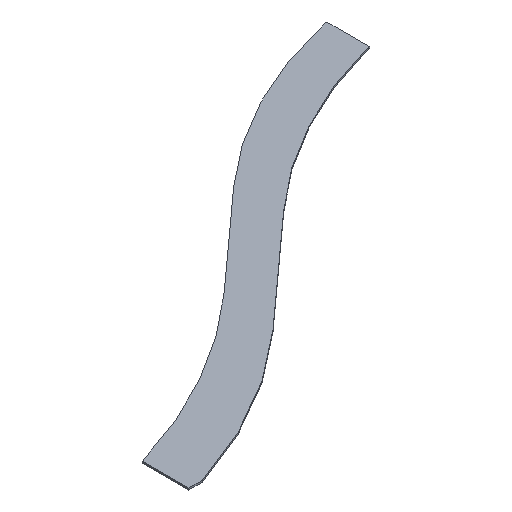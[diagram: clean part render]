
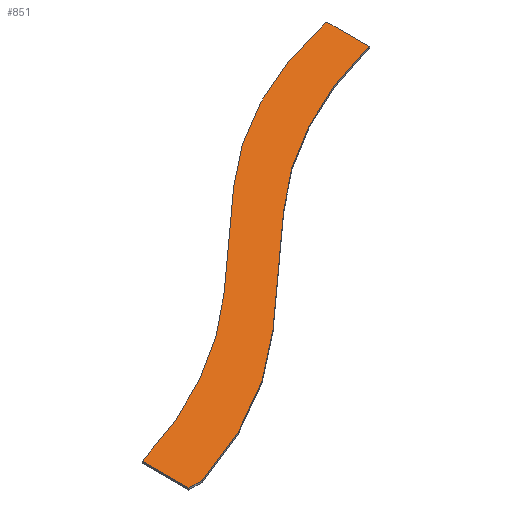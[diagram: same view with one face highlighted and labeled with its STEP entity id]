
A CAD part, isometric view. The second image highlights one B-rep face of the part: STEP entity #851.
In plain terms, the highlighted planar face has unit normal (0, 0, 1).
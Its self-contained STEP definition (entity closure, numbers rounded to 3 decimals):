
#660=CIRCLE('',#821,2620.656);
#662=CIRCLE('',#824,2479.82);
#663=CIRCLE('',#825,2908.977);
#664=CIRCLE('',#826,2717.17);
#680=ORIENTED_EDGE('',*,*,#763,.F.);
#681=ORIENTED_EDGE('',*,*,#767,.T.);
#682=ORIENTED_EDGE('',*,*,#768,.T.);
#683=ORIENTED_EDGE('',*,*,#769,.F.);
#684=ORIENTED_EDGE('',*,*,#770,.T.);
#685=ORIENTED_EDGE('',*,*,#771,.F.);
#686=ORIENTED_EDGE('',*,*,#772,.T.);
#687=ORIENTED_EDGE('',*,*,#773,.F.);
#688=ORIENTED_EDGE('',*,*,#774,.F.);
#689=ORIENTED_EDGE('',*,*,#775,.F.);
#690=ORIENTED_EDGE('',*,*,#764,.T.);
#739=VERTEX_POINT('',#1177);
#741=VERTEX_POINT('',#1181);
#742=VERTEX_POINT('',#1185);
#744=VERTEX_POINT('',#1191);
#745=VERTEX_POINT('',#1193);
#746=VERTEX_POINT('',#1195);
#747=VERTEX_POINT('',#1197);
#748=VERTEX_POINT('',#1199);
#749=VERTEX_POINT('',#1201);
#750=VERTEX_POINT('',#1203);
#751=VERTEX_POINT('',#1205);
#763=EDGE_CURVE('',#741,#739,#1290,.T.);
#764=EDGE_CURVE('',#742,#739,#660,.T.);
#767=EDGE_CURVE('',#741,#744,#1292,.T.);
#768=EDGE_CURVE('',#744,#745,#1293,.T.);
#769=EDGE_CURVE('',#746,#745,#662,.T.);
#770=EDGE_CURVE('',#746,#747,#1294,.T.);
#771=EDGE_CURVE('',#748,#747,#663,.T.);
#772=EDGE_CURVE('',#748,#749,#1295,.T.);
#773=EDGE_CURVE('',#750,#749,#1296,.T.);
#774=EDGE_CURVE('',#751,#750,#664,.T.);
#775=EDGE_CURVE('',#742,#751,#1297,.T.);
#795=EDGE_LOOP('',(#680,#681,#682,#683,#684,#685,#686,#687,#688,#689,#690));
#808=FACE_BOUND('',#795,.T.);
#821=AXIS2_PLACEMENT_3D('',#1186,#915,#916);
#823=AXIS2_PLACEMENT_3D('',#1190,#920,#921);
#824=AXIS2_PLACEMENT_3D('',#1196,#924,#925);
#825=AXIS2_PLACEMENT_3D('',#1200,#927,#928);
#826=AXIS2_PLACEMENT_3D('',#1206,#931,#932);
#841=PLANE('',#823);
#851=ADVANCED_FACE('',(#808),#841,.T.);
#912=DIRECTION('',(-10.,0.,0.));
#915=DIRECTION('',(0.,0.,-1.));
#916=DIRECTION('',(-661.217,2535.869,0.));
#920=DIRECTION('',(0.,0.,1.));
#921=DIRECTION('',(0.,-1.,0.));
#922=DIRECTION('',(0.,255.868,0.));
#923=DIRECTION('',(-10.,0.,0.));
#924=DIRECTION('',(0.,0.,-1.));
#925=DIRECTION('',(-897.749,2311.613,0.));
#926=DIRECTION('',(-570.434,-514.409,0.));
#927=DIRECTION('',(0.,0.,1.));
#928=DIRECTION('',(1104.74,-2691.04,0.));
#929=DIRECTION('',(0.,-277.852,0.));
#930=DIRECTION('',(-80.,0.,0.));
#931=DIRECTION('',(0.,0.,-1.));
#932=DIRECTION('',(825.357,-2588.784,0.));
#933=DIRECTION('',(-647.896,-584.263,0.));
#1021=VECTOR('',#912,1.);
#1023=VECTOR('',#922,1.);
#1024=VECTOR('',#923,1.);
#1025=VECTOR('',#926,1.);
#1026=VECTOR('',#929,1.);
#1027=VECTOR('',#930,1.);
#1028=VECTOR('',#933,1.);
#1177=CARTESIAN_POINT('',(2825.,1818.204,10.));
#1181=CARTESIAN_POINT('',(2835.,1818.204,10.));
#1183=CARTESIAN_POINT('',(2835.,1818.204,10.));
#1185=CARTESIAN_POINT('',(1731.171,1228.525,10.));
#1186=CARTESIAN_POINT('',(3486.217,-717.665,10.));
#1190=CARTESIAN_POINT('',(0.,0.,10.));
#1191=CARTESIAN_POINT('',(2835.,2074.072,10.));
#1192=CARTESIAN_POINT('',(2835.,1818.204,10.));
#1193=CARTESIAN_POINT('',(2825.,2074.072,10.));
#1194=CARTESIAN_POINT('',(2835.,2074.072,10.));
#1195=CARTESIAN_POINT('',(1696.797,1493.769,10.));
#1196=CARTESIAN_POINT('',(3357.43,-347.916,10.));
#1197=CARTESIAN_POINT('',(1126.363,979.36,10.));
#1198=CARTESIAN_POINT('',(1696.797,1493.769,10.));
#1199=CARTESIAN_POINT('',(10.,352.139,10.));
#1200=CARTESIAN_POINT('',(-821.771,3139.666,10.));
#1201=CARTESIAN_POINT('',(10.,74.288,10.));
#1202=CARTESIAN_POINT('',(10.,352.139,10.));
#1203=CARTESIAN_POINT('',(90.,74.288,10.));
#1204=CARTESIAN_POINT('',(90.,74.288,10.));
#1205=CARTESIAN_POINT('',(1083.275,644.262,10.));
#1206=CARTESIAN_POINT('',(-735.357,2663.071,10.));
#1207=CARTESIAN_POINT('',(1731.171,1228.525,10.));
#1290=LINE('',#1183,#1021);
#1292=LINE('',#1192,#1023);
#1293=LINE('',#1194,#1024);
#1294=LINE('',#1198,#1025);
#1295=LINE('',#1202,#1026);
#1296=LINE('',#1204,#1027);
#1297=LINE('',#1207,#1028);
